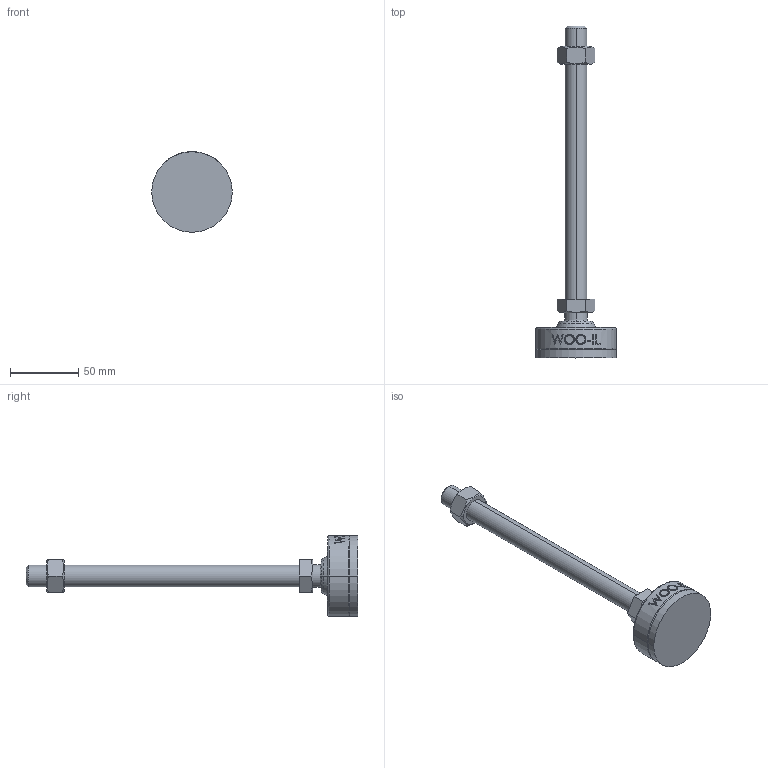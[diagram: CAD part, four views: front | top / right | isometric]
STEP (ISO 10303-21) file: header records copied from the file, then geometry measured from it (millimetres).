
FILE_DESCRIPTION (( 'STEP AP214' ), '1' );
FILE_NAME ('MFNR59-M16-200.step', '2021-02-22T09:07:04', ( '' ), ( '' ), 'SwSTEP 2.0', 'SolidWorks 2019', '' );
FILE_SCHEMA (( 'AUTOMOTIVE_DESIGN' ));
Length unit declared in the file: millimetre
Products named in the file (2): MFNR59-M16-200
Bounding box: 59 x 243 x 59 mm (x, y, z)
Volume: 113518.4 mm3; surface area: 23890.2 mm2
Topology: 2 solids, 2 shells, 105 faces, 245 edges, 156 vertices
Faces by surface type: plane 47, cone 18, cylinder 18, bspline 16, torus 4, sphere 2
Entity records: 4515 total; most frequent: CARTESIAN_POINT 2178, ORIENTED_EDGE 490, DIRECTION 437, EDGE_CURVE 245, AXIS2_PLACEMENT_3D 167, VERTEX_POINT 156, EDGE_LOOP 119, ADVANCED_FACE 105
